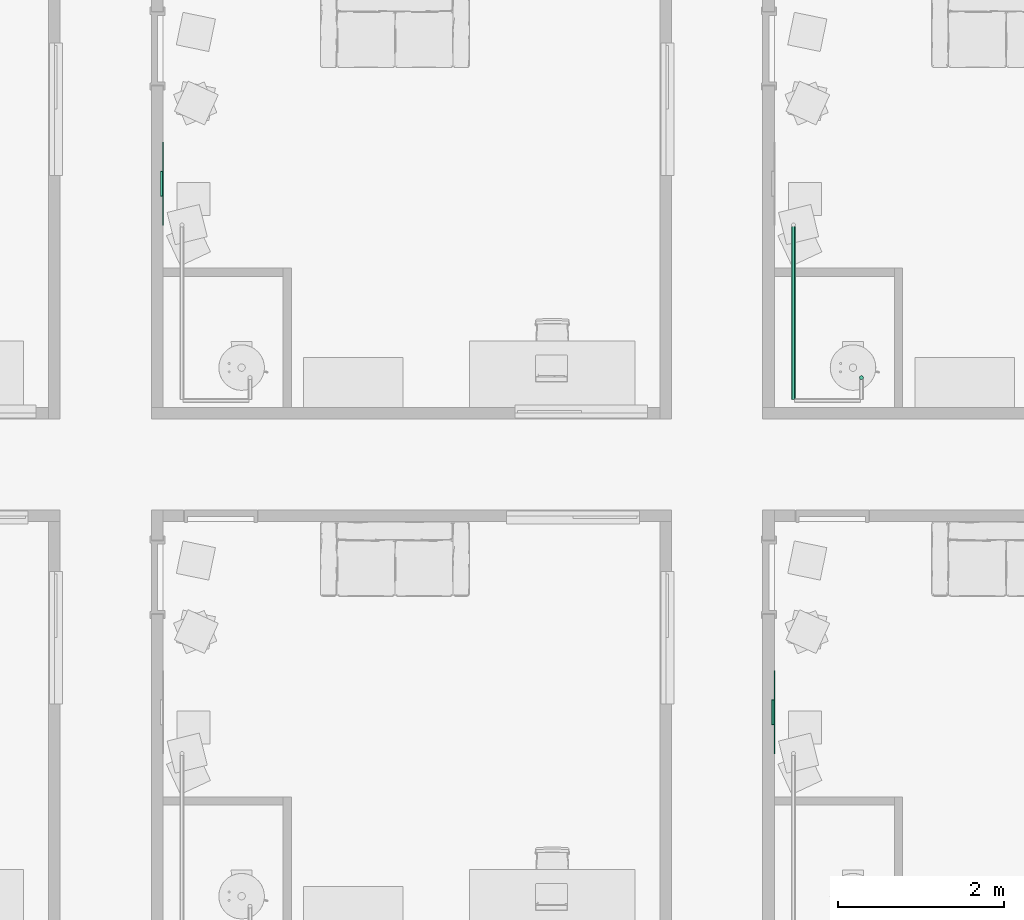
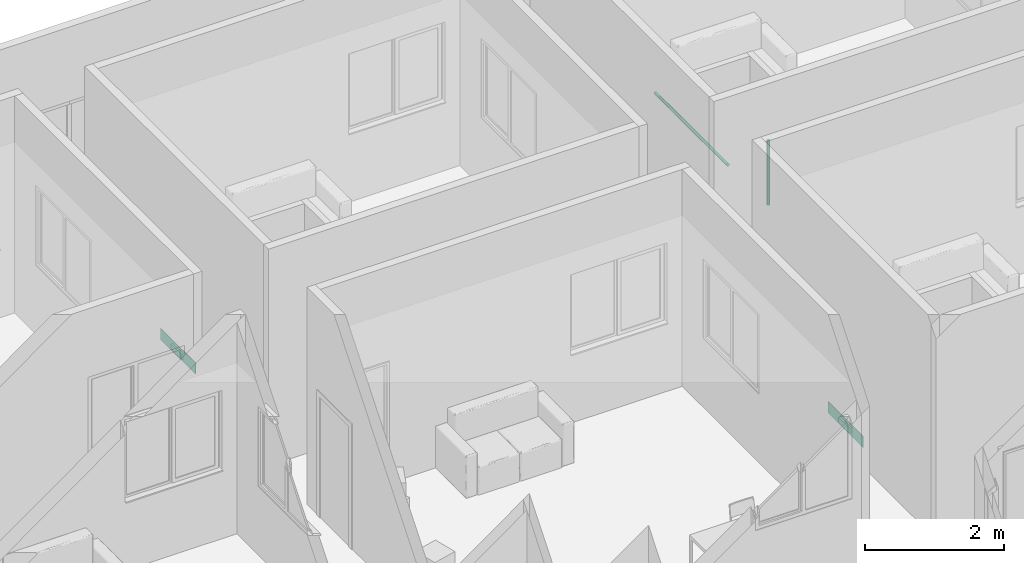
# One storey, part 41 of 72: 2 air terminals, 2 pipe segments.
"""IFC4 building model written with IfcOpenShell, lengths in centimetres."""

from ifc_helpers import new_model, entity, si_unit, converted_unit, derived_unit, direction, frame, origin, place, context, subcontext, project, spatial, arc, indexed_curve, outline, extrude, source, transform, mapped, material, constituent, constituent_set, type_object, type_shapes, element, save


model = new_model("IFC4")

# Units and contexts
model_context = context("Model", 3, precision=0.001, world=origin(), true_north=direction((6.123233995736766e-17, 1.0)))
body_context = subcontext(model_context, "Body", "Model", "MODEL_VIEW")
ifc_project = project(units=[si_unit("LENGTHUNIT", "METRE", prefix="CENTI"), si_unit("AREAUNIT", "SQUARE_METRE"), si_unit("VOLUMEUNIT", "CUBIC_METRE"), derived_unit("THERMALTRANSMITTANCEUNIT", [(si_unit("MASSUNIT", "GRAM", prefix="KILO"), 1), (si_unit("THERMODYNAMICTEMPERATUREUNIT", "KELVIN"), -1), (si_unit("TIMEUNIT", "SECOND"), -3)]), converted_unit("PLANEANGLEUNIT", "DEGREE", entity("IfcPlaneAngleMeasure", 0.017453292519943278), si_unit("PLANEANGLEUNIT", "RADIAN"), dimensions=[0, 0, 0, 0, 0, 0, 0]), derived_unit("MASSDENSITYUNIT", [(si_unit("MASSUNIT", "GRAM", prefix="KILO"), 1), (si_unit("LENGTHUNIT", "METRE"), -3)]), derived_unit("VAPORPERMEABILITYUNIT", [(si_unit("LENGTHUNIT", "METRE"), -1), (si_unit("TIMEUNIT", "SECOND"), 1)]), derived_unit("USERDEFINED", [(si_unit("MASSUNIT", "GRAM", prefix="KILO"), 1), (si_unit("TIMEUNIT", "SECOND"), -3), (si_unit("LENGTHUNIT", "METRE"), 3), (si_unit("ELECTRICCURRENTUNIT", "AMPERE"), -2)]), derived_unit("SPECIFICHEATCAPACITYUNIT", [(si_unit("THERMODYNAMICTEMPERATUREUNIT", "KELVIN"), -1), (si_unit("LENGTHUNIT", "METRE"), 2), (si_unit("TIMEUNIT", "SECOND"), -2)]), derived_unit("THERMALCONDUCTANCEUNIT", [(si_unit("MASSUNIT", "GRAM", prefix="KILO"), 1), (si_unit("THERMODYNAMICTEMPERATUREUNIT", "KELVIN"), -1), (si_unit("TIMEUNIT", "SECOND"), -3), (si_unit("LENGTHUNIT", "METRE"), 1)]), si_unit("PRESSUREUNIT", "PASCAL"), derived_unit("MODULUSOFELASTICITYUNIT", [(si_unit("MASSUNIT", "GRAM", prefix="KILO"), 1), (si_unit("LENGTHUNIT", "METRE"), -1), (si_unit("TIMEUNIT", "SECOND"), -2)]), derived_unit("THERMALEXPANSIONCOEFFICIENTUNIT", [(si_unit("THERMODYNAMICTEMPERATUREUNIT", "KELVIN"), -1)])], contexts=[model_context])

# Site, building, storey, space
site_placement = place(None, origin())
site = spatial("IfcSite", under=ifc_project, at=site_placement, Name="Default", CompositionType="ELEMENT")
building_placement = place(site_placement, origin())
building = spatial("IfcBuilding", under=site, at=building_placement, Name="IDS Escape Game Building", CompositionType="ELEMENT")
storey_placement = place(building_placement, frame((0.0, 0.0, 800.0)))
storey = spatial("IfcBuildingStorey", under=building, at=storey_placement, Name="02_Second Floor", CompositionType="ELEMENT", Elevation=800.0)
space_1_placement = place(storey_placement, origin())
space_1 = spatial("IfcSpace", under=storey, at=space_1_placement, Name="98", CompositionType="ELEMENT", PredefinedType="NOTDEFINED")

# Air terminal
ifc_material_1 = material(Name="TB_LVC_referentievlak_00_gen_BERSnl", Category="BE Default")
ifc_constituent_1 = constituent(ifc_material_1, Name="TB_LVC_referentievlak_00_gen_BERSnl", Category="BE Default", fraction=0.00014157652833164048)
ifc_material_2 = material(Name="ARC_FME.h2_staal_00_gen_BERSnl", Category="h - metaal")
ifc_constituent_2 = constituent(ifc_material_2, Name="ARC_FME.h2_staal_00_gen_BERSnl", Category="h - metaal", fraction=0.9998584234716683)
ifc_constituent_set_1 = constituent_set(constituents=[ifc_constituent_1, ifc_constituent_2])
ifc_constituent_3 = constituent(ifc_material_1, Name="BE Referentievlak", Category="BE Default", fraction=0.00014157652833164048)
ifc_constituent_4 = constituent(ifc_material_2, Name="Terminals", Category="h - metaal", fraction=0.9998584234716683)
ifc_constituent_set_2 = constituent_set(constituents=[ifc_constituent_3, ifc_constituent_4])
air_terminal_type = type_object("IfcAirTerminalType", Name="TB_57_AIR_FB_aanzuigrooster - 1 rechthoekige aansluiting - calculated flow_gen_BERSnl:Air Terminal - Exhaust", PredefinedType="GRILLE", material=ifc_constituent_set_2)
shared_shape = source(origin(), body_context, "Body", "SweptSolid", [
    extrude(outline(indexed_curve([(-0.5, -2.0290176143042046e-15), (6.8507733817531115e-16, -0.5000000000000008), (0.5, 2.0290176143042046e-15), (-5.361679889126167e-16, 0.49999999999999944)], segments=[arc(1, 2, 3), arc(3, 4, 1)], self_intersect=False)), frame((0.0, 0.0, 0.0), z_axis=(1.7453292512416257e-05, 0.0, 1.0), x_axis=(0.0, 1.0, 0.0)), (0.0, 0.0, 1.0), 0.09999999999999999),
    extrude(outline(indexed_curve([(-14.900000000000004, -4.9), (14.900000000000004, -4.9), (14.900000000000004, 4.9), (-14.900000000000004, 4.9), (-14.900000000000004, -4.9)], self_intersect=False)), frame((-4.886921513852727e-05, 0.0, -2.7999999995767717)), (0.0, 0.0, 1.0), 2.7999999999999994),
    extrude(outline(indexed_curve([(-50.0, -10.0), (50.0, -10.0), (50.0, 10.0), (-50.0, 10.0), (-50.0, -10.0)], self_intersect=False)), frame((0.0, 0.0, 0.0), z_axis=(0.0, 0.0, 1.0), x_axis=(-1.0, 0.0, 0.0)), (0.0, 0.0, 1.0), 0.6999999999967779),
])
type_shapes(air_terminal_type, [shared_shape])
air_terminal_1_placement = place(space_1_placement, frame((4435.0, 2197.0, 24.0), z_axis=(1.0, 0.0, 0.0), x_axis=(0.0, 1.0, 0.0)))
element("IfcAirTerminal", 1, at=air_terminal_1_placement, inside=space_1, type_object=air_terminal_type, material=ifc_constituent_set_1, Name="TB_57_AIR_FB_aanzuigrooster - 1 rechthoekige aansluiting - calculated flow_gen_BERSnl:Air Terminal - Exhaust", ObjectType="TB_57_AIR_FB_aanzuigrooster - 1 rechthoekige aansluiting - calculated flow_gen_BERSnl:Air Terminal - Exhaust", PredefinedType="GRILLE", context=body_context, shape_type="MappedRepresentation", body=[
    mapped(shared_shape, transform((0.0, 0.0, 0.0), scale=1.0)),
])

# Space
space_2_placement = place(storey_placement, origin())
space_2 = spatial("IfcSpace", under=storey, at=space_2_placement, Name="104", CompositionType="ELEMENT", PredefinedType="NOTDEFINED")

# Air terminal
ifc_constituent_5 = constituent(ifc_material_1, Name="TB_LVC_referentievlak_00_gen_BERSnl", Category="BE Default", fraction=0.00014157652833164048)
ifc_constituent_6 = constituent(ifc_material_2, Name="ARC_FME.h2_staal_00_gen_BERSnl", Category="h - metaal", fraction=0.9998584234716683)
ifc_constituent_set_3 = constituent_set(constituents=[ifc_constituent_5, ifc_constituent_6])
air_terminal_2_placement = place(space_2_placement, frame((3697.0, 2835.0, 24.0), z_axis=(1.0, 0.0, 0.0), x_axis=(0.0, 1.0, 0.0)))
element("IfcAirTerminal", 2, at=air_terminal_2_placement, inside=space_2, type_object=air_terminal_type, material=ifc_constituent_set_3, Name="TB_57_AIR_FB_aanzuigrooster - 1 rechthoekige aansluiting - calculated flow_gen_BERSnl:Air Terminal - Exhaust", ObjectType="TB_57_AIR_FB_aanzuigrooster - 1 rechthoekige aansluiting - calculated flow_gen_BERSnl:Air Terminal - Exhaust", PredefinedType="GRILLE", context=body_context, shape_type="MappedRepresentation", body=[
    mapped(shared_shape, transform((0.0, 0.0, 0.0), scale=1.0)),
])

# Pipe segments
pipe_segment_type = type_object("IfcPipeSegmentType", Name="Pipe Types:Piping Aluminum", PredefinedType="NOTDEFINED")
pipe_segment_1_placement = place(storey_placement, origin())
element("IfcPipeSegment", 3, at=pipe_segment_1_placement, inside=storey, type_object=pipe_segment_type, Name="Pipe Types:Piping Aluminum", ObjectType="Pipe Types:Piping Aluminum", PredefinedType="NOTDEFINED", context=body_context, shape_type="SweptSolid", body=[
    extrude(outline(indexed_curve([(2.4130000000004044, 0.0), (1.7062486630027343, 1.7062486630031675), (0.0, 2.412999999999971), (-1.7062486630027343, 1.7062486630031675), (-2.4130000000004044, 0.0), (-1.7062486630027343, -1.7062486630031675), (0.0, -2.412999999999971), (1.7062486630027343, -1.7062486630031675)], segments=[arc(1, 2, 3), arc(3, 4, 5), arc(5, 6, 7), arc(7, 8, 1)], self_intersect=False)), frame((4540.150000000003, 2600.900000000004, 128.0), z_axis=(0.0, 0.0, 1.0), x_axis=(-1.0, 0.0, 0.0)), (0.0, 0.0, 1.0), 112.90000000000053),
])
pipe_segment_2_placement = place(storey_placement, origin())
element("IfcPipeSegment", 4, at=pipe_segment_2_placement, inside=storey, type_object=pipe_segment_type, Name="Pipe Types:Piping Aluminum", ObjectType="Pipe Types:Piping Aluminum", PredefinedType="NOTDEFINED", context=body_context, shape_type="SweptSolid", body=[
    extrude(outline(indexed_curve([(2.4130000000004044, 0.0), (1.7062486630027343, 1.7062486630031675), (0.0, 2.412999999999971), (-1.7062486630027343, 1.7062486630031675), (-2.4130000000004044, 0.0), (-1.7062486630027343, -1.7062486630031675), (0.0, -2.412999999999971), (1.7062486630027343, -1.7062486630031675)], segments=[arc(1, 2, 3), arc(3, 4, 5), arc(5, 6, 7), arc(7, 8, 1)], self_intersect=False)), frame((4458.046716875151, 2574.364827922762, 242.0), z_axis=(0.0, 1.0, 0.0), x_axis=(1.0, 0.0, 0.0)), (0.0, 0.0, 1.0), 208.80000000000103),
])

save(model, "model.ifc")
